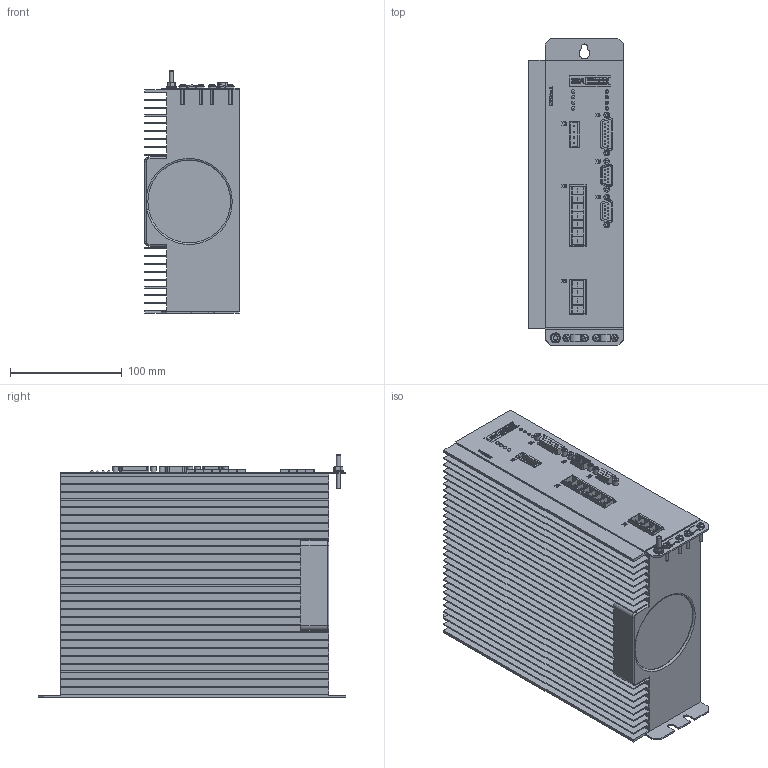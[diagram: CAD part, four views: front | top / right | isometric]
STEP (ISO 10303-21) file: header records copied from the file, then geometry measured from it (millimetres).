
FILE_DESCRIPTION(/* description */ ('Alibre Inc.'),/* implementation_level */ '2;1');
FILE_NAME(/* name */ 'export0',/* time_stamp */ '2011-02-17T08:20:00+01:00',/* author */ (''),/* organization */ ('ESR Pollmeier GmbH'),/* preprocessor_version */ 'ST-DEVELOPER v10',/* originating_system */ 'Alibre',/* authorisation */ '');
FILE_SCHEMA (('CONFIG_CONTROL_DESIGN'));
Length unit declared in the file: centimetre
Products named in the file (7): ID_1; ID_2; BÜLTE | rundkopfschrauben_M3_16; BÜLTE | 1254; BÜLTE | 9344; ID_3
Bounding box: 85 x 275 x 217 mm (x, y, z)
Surface area: 460270.9 mm2
Topology: 22 solids, 29 shells, 1889 faces, 4965 edges, 3294 vertices
Faces by surface type: plane 1092, bspline 598, cylinder 155, cone 29, sphere 12, torus 3
Full cylindrical faces by diameter (mm): 1 x33, 2.5 x16, 3 x4, 3.1 x4, 4 x1, 5 x12, 6 x1, 74 x1
Entity records: 54739 total; most frequent: CARTESIAN_POINT 14967, ORIENTED_EDGE 9330, DIRECTION 5020, EDGE_CURVE 4653, VERTEX_POINT 3136, VECTOR 3078, LINE 3078, EDGE_LOOP 2077
